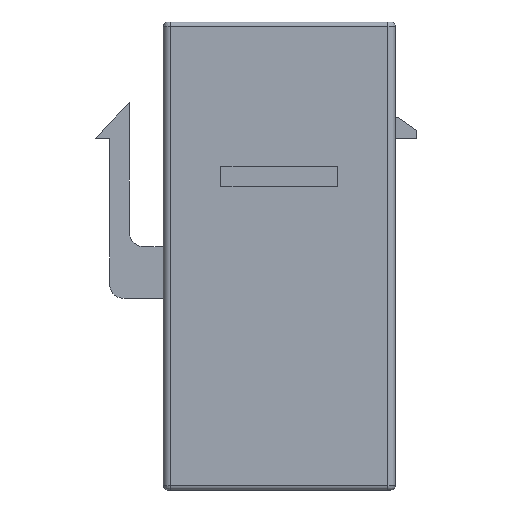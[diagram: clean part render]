
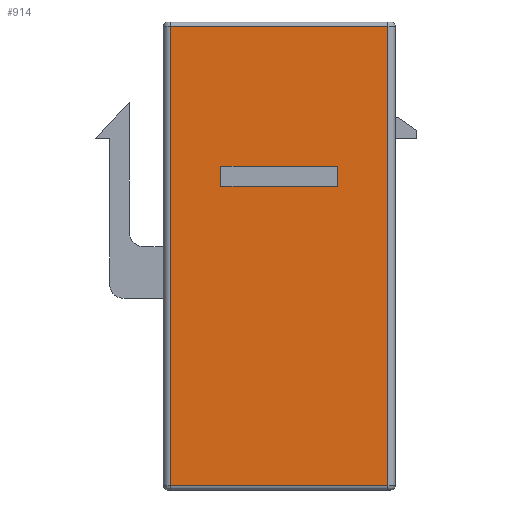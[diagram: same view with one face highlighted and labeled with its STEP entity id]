
A CAD part, left-side view. The second image highlights one B-rep face of the part: STEP entity #914.
In plain terms, the highlighted planar face has unit normal (-1, 0, 0).
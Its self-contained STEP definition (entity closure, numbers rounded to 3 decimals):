
#196 = VERTEX_POINT('',#197);
#197 = CARTESIAN_POINT('',(-7.25,7.55,0.3));
#204 = EDGE_CURVE('',#196,#205,#207,.T.);
#205 = VERTEX_POINT('',#206);
#206 = CARTESIAN_POINT('',(-7.25,7.55,32.2));
#207 = LINE('',#208,#209);
#208 = CARTESIAN_POINT('',(-7.25,7.55,0.));
#209 = VECTOR('',#210,1.);
#210 = DIRECTION('',(0.,0.,1.));
#914 = ADVANCED_FACE('',(#915,#940),#974,.F.);
#915 = FACE_BOUND('',#916,.F.);
#916 = EDGE_LOOP('',(#917,#918,#926,#934));
#917 = ORIENTED_EDGE('',*,*,#204,.T.);
#918 = ORIENTED_EDGE('',*,*,#919,.T.);
#919 = EDGE_CURVE('',#205,#920,#922,.T.);
#920 = VERTEX_POINT('',#921);
#921 = CARTESIAN_POINT('',(-7.25,-7.55,32.2));
#922 = LINE('',#923,#924);
#923 = CARTESIAN_POINT('',(-7.25,7.55,32.2));
#924 = VECTOR('',#925,1.);
#925 = DIRECTION('',(0.,-1.,0.));
#926 = ORIENTED_EDGE('',*,*,#927,.F.);
#927 = EDGE_CURVE('',#928,#920,#930,.T.);
#928 = VERTEX_POINT('',#929);
#929 = CARTESIAN_POINT('',(-7.25,-7.55,0.3));
#930 = LINE('',#931,#932);
#931 = CARTESIAN_POINT('',(-7.25,-7.55,0.));
#932 = VECTOR('',#933,1.);
#933 = DIRECTION('',(0.,0.,1.));
#934 = ORIENTED_EDGE('',*,*,#935,.F.);
#935 = EDGE_CURVE('',#196,#928,#936,.T.);
#936 = LINE('',#937,#938);
#937 = CARTESIAN_POINT('',(-7.25,7.55,0.3));
#938 = VECTOR('',#939,1.);
#939 = DIRECTION('',(0.,-1.,0.));
#940 = FACE_BOUND('',#941,.F.);
#941 = EDGE_LOOP('',(#942,#952,#960,#968));
#942 = ORIENTED_EDGE('',*,*,#943,.F.);
#943 = EDGE_CURVE('',#944,#946,#948,.T.);
#944 = VERTEX_POINT('',#945);
#945 = CARTESIAN_POINT('',(-7.25,-4.05,22.5));
#946 = VERTEX_POINT('',#947);
#947 = CARTESIAN_POINT('',(-7.25,-4.05,21.1));
#948 = LINE('',#949,#950);
#949 = CARTESIAN_POINT('',(-7.25,-4.05,22.5));
#950 = VECTOR('',#951,1.);
#951 = DIRECTION('',(-0.,-0.,-1.));
#952 = ORIENTED_EDGE('',*,*,#953,.T.);
#953 = EDGE_CURVE('',#944,#954,#956,.T.);
#954 = VERTEX_POINT('',#955);
#955 = CARTESIAN_POINT('',(-7.25,4.05,22.5));
#956 = LINE('',#957,#958);
#957 = CARTESIAN_POINT('',(-7.25,-4.05,22.5));
#958 = VECTOR('',#959,1.);
#959 = DIRECTION('',(0.,1.,0.));
#960 = ORIENTED_EDGE('',*,*,#961,.T.);
#961 = EDGE_CURVE('',#954,#962,#964,.T.);
#962 = VERTEX_POINT('',#963);
#963 = CARTESIAN_POINT('',(-7.25,4.05,21.1));
#964 = LINE('',#965,#966);
#965 = CARTESIAN_POINT('',(-7.25,4.05,22.5));
#966 = VECTOR('',#967,1.);
#967 = DIRECTION('',(-0.,-0.,-1.));
#968 = ORIENTED_EDGE('',*,*,#969,.F.);
#969 = EDGE_CURVE('',#946,#962,#970,.T.);
#970 = LINE('',#971,#972);
#971 = CARTESIAN_POINT('',(-7.25,-4.05,21.1));
#972 = VECTOR('',#973,1.);
#973 = DIRECTION('',(0.,1.,0.));
#974 = PLANE('',#975);
#975 = AXIS2_PLACEMENT_3D('',#976,#977,#978);
#976 = CARTESIAN_POINT('',(-7.25,8.05,0.));
#977 = DIRECTION('',(1.,0.,0.));
#978 = DIRECTION('',(0.,-1.,0.));
